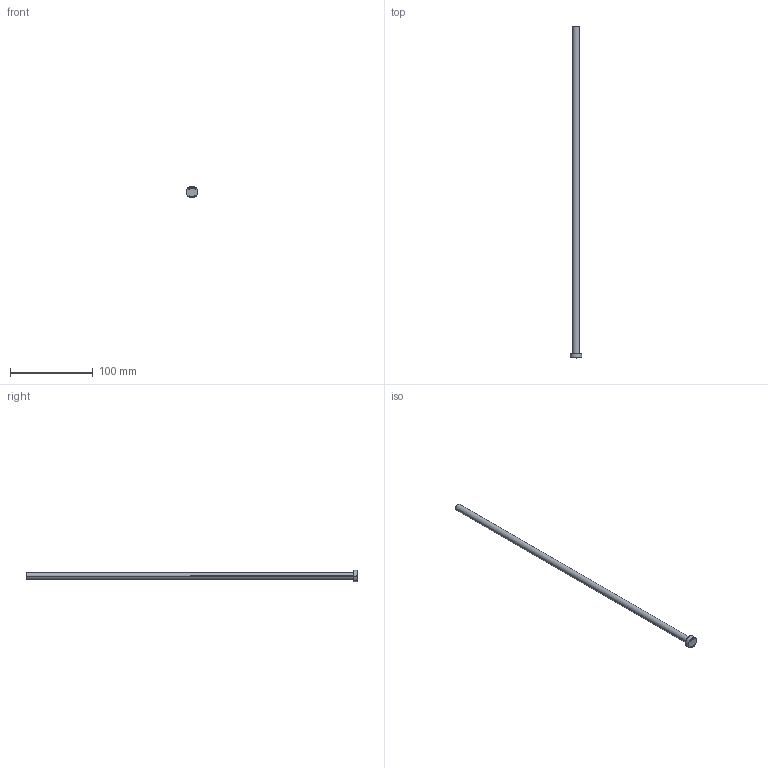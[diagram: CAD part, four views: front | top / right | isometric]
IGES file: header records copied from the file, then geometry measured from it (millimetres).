
Start section: SolidWorks IGES file using analytic representation for surfaces
Global section: file name: C:\Users\User\Downloads\Matripeça 31-08 tar\PB - PINO EXTRATOR TIPO _B_ (CATÁLOGO)\PB08,0\PB08,0400.IGS; native system: SolidWorks 2024; preprocessor: SolidWorks 2024; author: User; date: 260901.150011; units: millimetre
Bounding box: 14 x 400 x 14 mm (x, y, z)
Surface area: 10461.2 mm2 (no closed solid volume)
Topology: 0 solids, 0 shells, 409 faces, 4023 edges, 4023 vertices
Faces by surface type: bspline 395, revolution 14
